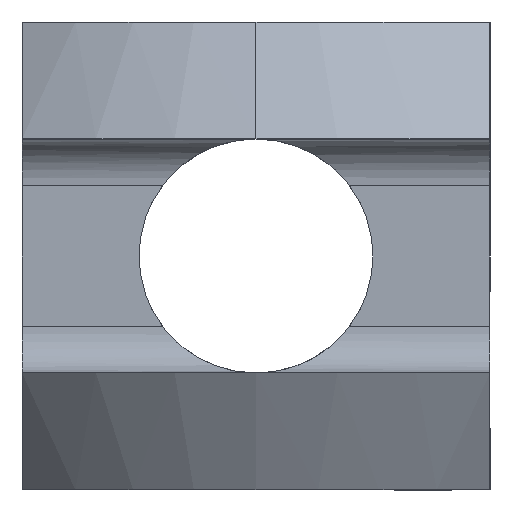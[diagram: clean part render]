
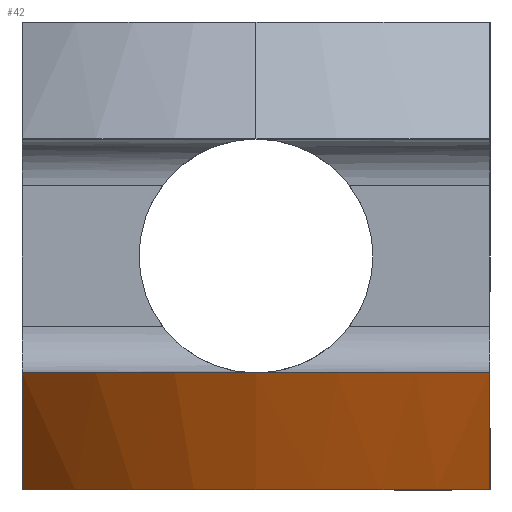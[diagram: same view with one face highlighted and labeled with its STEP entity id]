
A CAD part, left-side view. The second image highlights one B-rep face of the part: STEP entity #42.
In plain terms, the highlighted conical face has half-angle 30 degrees and reference radius 10 mm.
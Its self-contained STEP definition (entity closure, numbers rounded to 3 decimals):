
#42 = ADVANCED_FACE ( 'NONE', ( #425 ), #421, .T. ) ;
#46 = ORIENTED_EDGE ( 'NONE', *, *, #1258, .F. ) ;
#49 = EDGE_LOOP ( 'NONE', ( #62, #46, #56, #61 ) ) ;
#56 = ORIENTED_EDGE ( 'NONE', *, *, #269, .T. ) ;
#61 = ORIENTED_EDGE ( 'NONE', *, *, #244, .F. ) ;
#62 = ORIENTED_EDGE ( 'NONE', *, *, #343, .F. ) ;
#244 = EDGE_CURVE ( 'NONE', #345, #249, #800, .T. ) ;
#249 = VERTEX_POINT ( 'NONE', #832 ) ;
#264 = VERTEX_POINT ( 'NONE', #869 ) ;
#269 = EDGE_CURVE ( 'NONE', #264, #249, #863, .T. ) ;
#343 = EDGE_CURVE ( 'NONE', #344, #345, #1017, .T. ) ;
#344 = VERTEX_POINT ( 'NONE', #1012 ) ;
#345 = VERTEX_POINT ( 'NONE', #1011 ) ;
#420 = CARTESIAN_POINT ( 'NONE',  ( -26., 0., -2.5 ) ) ;
#421 = CONICAL_SURFACE ( 'NONE', #484, 10., 0.524 ) ;
#425 = FACE_OUTER_BOUND ( 'NONE', #49, .T. ) ;
#482 = DIRECTION ( 'NONE',  ( 1., 0., 0. ) ) ;
#483 = DIRECTION ( 'NONE',  ( 0., 0., 1. ) ) ;
#484 = AXIS2_PLACEMENT_3D ( 'NONE', #420, #483, #482 ) ;
#800 = B_SPLINE_CURVE_WITH_KNOTS ( 'NONE', 3,
 ( #854, #853, #852, #851 ),
 .UNSPECIFIED., .F., .F.,
 ( 4, 4 ),
 ( 0.007, 0.01 ),
 .UNSPECIFIED. ) ;
#832 = CARTESIAN_POINT ( 'NONE',  ( -32.944, -5., -5. ) ) ;
#851 = CARTESIAN_POINT ( 'NONE',  ( -32.944, -5., -5. ) ) ;
#852 = CARTESIAN_POINT ( 'NONE',  ( -33.53, -5., -4.176 ) ) ;
#853 = CARTESIAN_POINT ( 'NONE',  ( -34.1, -5., -3.341 ) ) ;
#854 = CARTESIAN_POINT ( 'NONE',  ( -34.66, -5., -2.5 ) ) ;
#859 = DIRECTION ( 'NONE',  ( 1., 0., 0. ) ) ;
#860 = DIRECTION ( 'NONE',  ( 0., 0., 1. ) ) ;
#861 = CARTESIAN_POINT ( 'NONE',  ( -26., 0., -5. ) ) ;
#862 = AXIS2_PLACEMENT_3D ( 'NONE', #861, #860, #859 ) ;
#863 = CIRCLE ( 'NONE', #862, 8.557 ) ;
#869 = CARTESIAN_POINT ( 'NONE',  ( -32.944, 5., -5. ) ) ;
#1011 = CARTESIAN_POINT ( 'NONE',  ( -34.66, -5., -2.5 ) ) ;
#1012 = CARTESIAN_POINT ( 'NONE',  ( -34.66, 5., -2.5 ) ) ;
#1013 = DIRECTION ( 'NONE',  ( 1., 0., 0. ) ) ;
#1014 = DIRECTION ( 'NONE',  ( 0., 0., 1. ) ) ;
#1015 = CARTESIAN_POINT ( 'NONE',  ( -26., 0., -2.5 ) ) ;
#1016 = AXIS2_PLACEMENT_3D ( 'NONE', #1015, #1014, #1013 ) ;
#1017 = CIRCLE ( 'NONE', #1016, 10. ) ;
#1140 = CARTESIAN_POINT ( 'NONE',  ( -34.66, 5., -2.5 ) ) ;
#1141 = CARTESIAN_POINT ( 'NONE',  ( -34.1, 5., -3.341 ) ) ;
#1142 = CARTESIAN_POINT ( 'NONE',  ( -33.53, 5., -4.176 ) ) ;
#1143 = CARTESIAN_POINT ( 'NONE',  ( -32.944, 5., -5. ) ) ;
#1144 = B_SPLINE_CURVE_WITH_KNOTS ( 'NONE', 3,
 ( #1143, #1142, #1141, #1140 ),
 .UNSPECIFIED., .F., .F.,
 ( 4, 4 ),
 ( 0.018, 0.021 ),
 .UNSPECIFIED. ) ;
#1258 = EDGE_CURVE ( 'NONE', #264, #344, #1144, .T. ) ;
